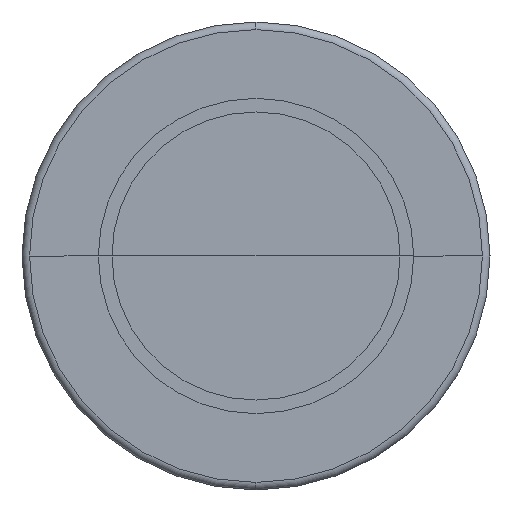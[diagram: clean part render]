
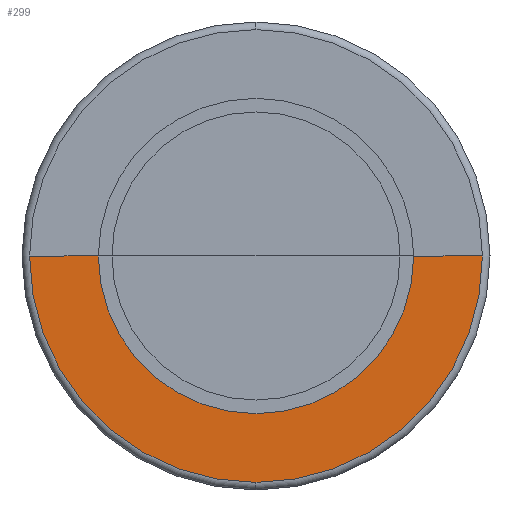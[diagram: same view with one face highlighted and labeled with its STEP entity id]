
A CAD part, left-side view. The second image highlights one B-rep face of the part: STEP entity #299.
In plain terms, the highlighted planar face has unit normal (-1, 0, 0).
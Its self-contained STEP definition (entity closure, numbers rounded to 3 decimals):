
#49 = FACE_OUTER_BOUND ( 'NONE', #1435, .T. ) ;
#70 = CIRCLE ( 'NONE', #1462, 20.85 ) ;
#128 = VERTEX_POINT ( 'NONE', #293 ) ;
#232 = EDGE_CURVE ( 'NONE', #128, #1279, #1027, .T. ) ;
#262 = CARTESIAN_POINT ( 'NONE',  ( -52.5, 0., 0. ) ) ;
#293 = CARTESIAN_POINT ( 'NONE',  ( -52.5, 29.95, 0. ) ) ;
#299 = ADVANCED_FACE ( 'NONE', ( #49 ), #626, .T. ) ;
#491 = LINE ( 'NONE', #582, #1300 ) ;
#542 = AXIS2_PLACEMENT_3D ( 'NONE', #1429, #734, #1201 ) ;
#555 = VERTEX_POINT ( 'NONE', #927 ) ;
#582 = CARTESIAN_POINT ( 'NONE',  ( -52.5, -29.95, 0. ) ) ;
#625 = AXIS2_PLACEMENT_3D ( 'NONE', #1368, #1378, #648 ) ;
#626 = PLANE ( 'NONE',  #542 ) ;
#627 = VECTOR ( 'NONE', #1030, 1000. ) ;
#648 = DIRECTION ( 'NONE',  ( 0., -1., 0. ) ) ;
#669 = CIRCLE ( 'NONE', #1077, 29.95 ) ;
#686 = ORIENTED_EDGE ( 'NONE', *, *, #868, .T. ) ;
#693 = ORIENTED_EDGE ( 'NONE', *, *, #1192, .T. ) ;
#734 = DIRECTION ( 'NONE',  ( -1., 0., 0. ) ) ;
#786 = EDGE_CURVE ( 'NONE', #1279, #1211, #669, .T. ) ;
#868 = EDGE_CURVE ( 'NONE', #1291, #555, #70, .T. ) ;
#927 = CARTESIAN_POINT ( 'NONE',  ( -52.5, 20.85, 0. ) ) ;
#954 = LINE ( 'NONE', #1304, #627 ) ;
#1021 = CARTESIAN_POINT ( 'NONE',  ( -52.5, -20.85, 0. ) ) ;
#1027 = CIRCLE ( 'NONE', #625, 29.95 ) ;
#1030 = DIRECTION ( 'NONE',  ( 0., 1., 0. ) ) ;
#1053 = ORIENTED_EDGE ( 'NONE', *, *, #232, .T. ) ;
#1064 = DIRECTION ( 'NONE',  ( 0., 1., 0. ) ) ;
#1077 = AXIS2_PLACEMENT_3D ( 'NONE', #262, #1117, #1101 ) ;
#1101 = DIRECTION ( 'NONE',  ( 0., -1., 0. ) ) ;
#1117 = DIRECTION ( 'NONE',  ( -1., 0., 0. ) ) ;
#1135 = CARTESIAN_POINT ( 'NONE',  ( -52.5, 0., -29.95 ) ) ;
#1143 = CARTESIAN_POINT ( 'NONE',  ( -52.5, -29.95, 0. ) ) ;
#1192 = EDGE_CURVE ( 'NONE', #555, #128, #954, .T. ) ;
#1201 = DIRECTION ( 'NONE',  ( 0., 1., 0. ) ) ;
#1211 = VERTEX_POINT ( 'NONE', #1143 ) ;
#1225 = ORIENTED_EDGE ( 'NONE', *, *, #786, .T. ) ;
#1279 = VERTEX_POINT ( 'NONE', #1135 ) ;
#1291 = VERTEX_POINT ( 'NONE', #1021 ) ;
#1300 = VECTOR ( 'NONE', #1064, 1000. ) ;
#1304 = CARTESIAN_POINT ( 'NONE',  ( -52.5, 20.85, 0. ) ) ;
#1319 = ORIENTED_EDGE ( 'NONE', *, *, #1450, .T. ) ;
#1348 = DIRECTION ( 'NONE',  ( 0., -1., 0. ) ) ;
#1359 = DIRECTION ( 'NONE',  ( 1., 0., 0. ) ) ;
#1368 = CARTESIAN_POINT ( 'NONE',  ( -52.5, 0., 0. ) ) ;
#1378 = DIRECTION ( 'NONE',  ( -1., 0., 0. ) ) ;
#1429 = CARTESIAN_POINT ( 'NONE',  ( -52.5, 0., 0. ) ) ;
#1435 = EDGE_LOOP ( 'NONE', ( #693, #1053, #1225, #1319, #686 ) ) ;
#1450 = EDGE_CURVE ( 'NONE', #1211, #1291, #491, .T. ) ;
#1462 = AXIS2_PLACEMENT_3D ( 'NONE', #1493, #1359, #1348 ) ;
#1493 = CARTESIAN_POINT ( 'NONE',  ( -52.5, 0., 0. ) ) ;
